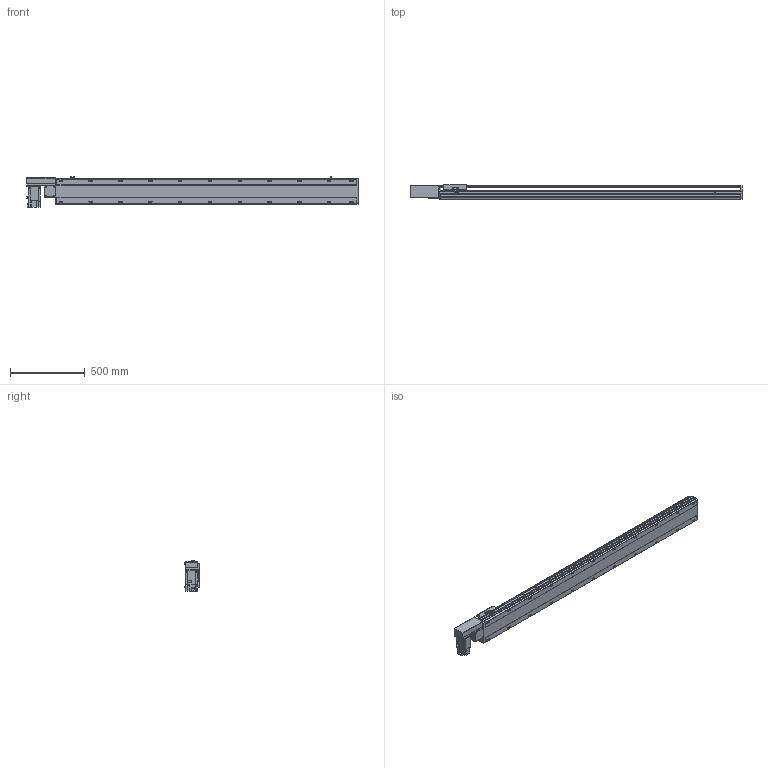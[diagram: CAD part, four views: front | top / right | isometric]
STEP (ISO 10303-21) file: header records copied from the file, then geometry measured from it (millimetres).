
FILE_DESCRIPTION(/* description */ ('STEP AP214'),/* implementation_level */ '2;1');
FILE_NAME(/* name */ 'PBS170-P40-S1750-R-T75-C1-N(0)',/* time_stamp */ '2022-06-07T09:31:04+02:00',/* author */ ('License CC BY-ND 4.0'),/* organization */ ('CADENAS'),/* preprocessor_version */ 'ST-DEVELOPER v18.102',/* originating_system */ 'PARTsolutions',/* authorisation */ ' ');
FILE_SCHEMA (('AUTOMOTIVE_DESIGN {1 0 10303 214 3 1 1}'));
Length unit declared in the file: millimetre
Products named in the file (7): PBS170-P40-S1750-R-T75-C1-N(0); PBS170_sensor; PBS170_plant; PBS170_sliser; T75-p1; PBS170T-R_motors; PBS170-S1750()_body
Assembly tree (8 placements, depth 2):
  PBS170-P40-S1750-R-T75-C1-N(0)
    PBS170_sensor  x3
    PBS170_plant
    PBS170_sliser
    T75-p1
    PBS170T-R_motors
    PBS170-S1750()_body
Bounding box: 2228 x 97 x 205.3 mm (x, y, z)
Volume: 16334978.7 mm3; surface area: 2084694 mm2
Topology: 8 solids, 8 shells, 1130 faces, 2995 edges, 1952 vertices
Faces by surface type: plane 705, cylinder 363, cone 52, sphere 8, torus 2
Full cylindrical faces by diameter (mm): 3.242 x4, 4 x2, 4.4 x4, 4.5 x6, 4.917 x4, 6 x9, 6.647 x30, 7 x2, 7.5 x4, 8 x8, 8.5 x22, 10 x4, 10.5 x22, 11 x2, 30 x2, 40 x1, 70 x1
Entity records: 32492 total; most frequent: CARTESIAN_POINT 6049, DIRECTION 5510, ORIENTED_EDGE 5208, EDGE_CURVE 2604, AXIS2_PLACEMENT_3D 1927, VERTEX_POINT 1802, LINE 1656, VECTOR 1656
